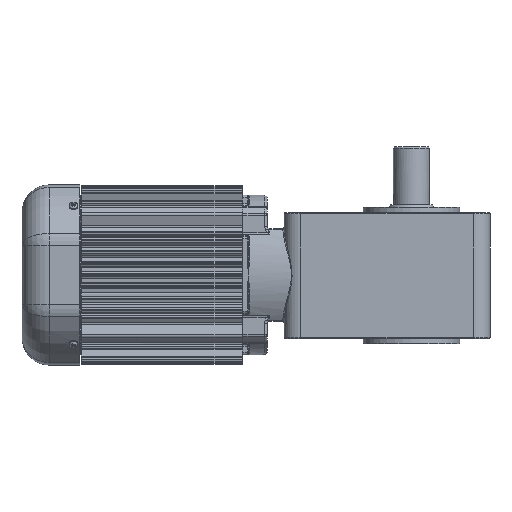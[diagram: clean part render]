
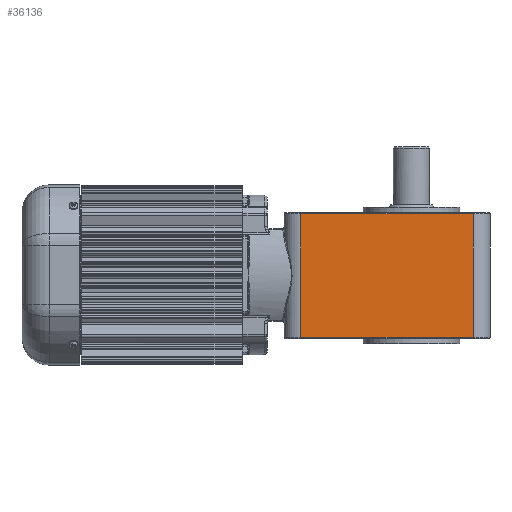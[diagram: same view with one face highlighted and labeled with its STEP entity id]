
A CAD part, front view. The second image highlights one B-rep face of the part: STEP entity #36136.
In plain terms, the highlighted planar face has unit normal (0, -1, 0).
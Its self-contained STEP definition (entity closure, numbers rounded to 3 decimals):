
#2495=LINE('',#61150,#4937);
#2693=LINE('',#64320,#5135);
#2694=LINE('',#64322,#5136);
#2695=LINE('',#64323,#5137);
#4937=VECTOR('',#47950,11.);
#5135=VECTOR('',#49114,11.);
#5136=VECTOR('',#49117,134.);
#5137=VECTOR('',#49118,134.);
#8249=FACE_OUTER_BOUND('',#10360,.T.);
#10360=EDGE_LOOP('',(#29518,#29519,#29520,#29521));
#15424=VERTEX_POINT('',#61146);
#15426=VERTEX_POINT('',#61149);
#15720=VERTEX_POINT('',#64316);
#15721=VERTEX_POINT('',#64318);
#19888=EDGE_CURVE('',#15424,#15426,#2495,.T.);
#20466=EDGE_CURVE('',#15720,#15721,#2693,.T.);
#20467=EDGE_CURVE('',#15720,#15424,#2694,.T.);
#20468=EDGE_CURVE('',#15426,#15721,#2695,.T.);
#29518=ORIENTED_EDGE('',*,*,#20467,.F.);
#29519=ORIENTED_EDGE('',*,*,#20466,.T.);
#29520=ORIENTED_EDGE('',*,*,#20468,.F.);
#29521=ORIENTED_EDGE('',*,*,#19888,.F.);
#32405=PLANE('',#39868);
#36136=ADVANCED_FACE('',(#8249),#32405,.T.);
#39868=AXIS2_PLACEMENT_3D('',#64321,#49115,#49116);
#47950=DIRECTION('',(0.,0.,1.));
#49114=DIRECTION('',(0.,0.,1.));
#49115=DIRECTION('center_axis',(0.,-1.,0.));
#49116=DIRECTION('ref_axis',(0.,0.,-1.));
#49117=DIRECTION('',(-1.,0.,0.));
#49118=DIRECTION('',(1.,0.,0.));
#61146=CARTESIAN_POINT('',(-16.5,-91.94,-44.139));
#61149=CARTESIAN_POINT('',(-16.5,-91.94,51.861));
#61150=CARTESIAN_POINT('',(-16.5,-91.94,40.861));
#64316=CARTESIAN_POINT('',(117.5,-91.94,-44.139));
#64318=CARTESIAN_POINT('',(117.5,-91.94,51.861));
#64320=CARTESIAN_POINT('',(117.5,-91.94,40.861));
#64321=CARTESIAN_POINT('Origin',(117.5,-91.94,42.361));
#64322=CARTESIAN_POINT('',(117.5,-91.94,-44.139));
#64323=CARTESIAN_POINT('',(-16.5,-91.94,51.861));
